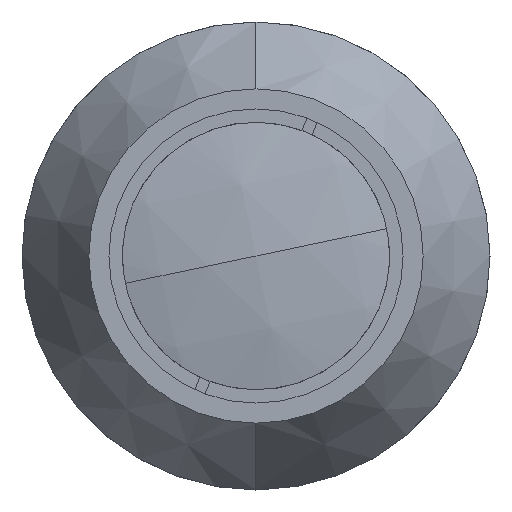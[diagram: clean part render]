
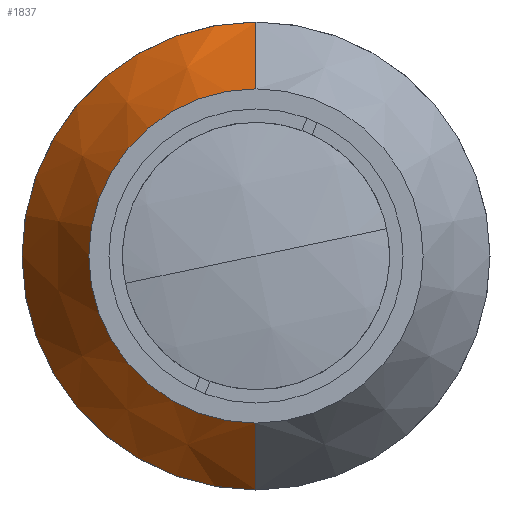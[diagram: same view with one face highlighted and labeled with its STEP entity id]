
A CAD part, left-side view. The second image highlights one B-rep face of the part: STEP entity #1837.
In plain terms, the highlighted conical face has half-angle 30 degrees and reference radius 21 mm.
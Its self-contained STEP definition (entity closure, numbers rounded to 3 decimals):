
#91 = EDGE_LOOP ( 'NONE', ( #3039, #1807, #3028, #622 ) ) ;
#232 = DIRECTION ( 'NONE',  ( 0., 0., 1. ) ) ;
#233 = CARTESIAN_POINT ( 'NONE',  ( 25.392, 0., 0. ) ) ;
#522 = CONICAL_SURFACE ( 'NONE', #3372, 21., 0.524 ) ;
#622 = ORIENTED_EDGE ( 'NONE', *, *, #1329, .F. ) ;
#696 = VERTEX_POINT ( 'NONE', #1925 ) ;
#812 = DIRECTION ( 'NONE',  ( 0., 0., -1. ) ) ;
#943 = VECTOR ( 'NONE', #3782, 1000. ) ;
#969 = CARTESIAN_POINT ( 'NONE',  ( 15., 0., -15. ) ) ;
#972 = DIRECTION ( 'NONE',  ( 0.866, 0., -0.5 ) ) ;
#1041 = VECTOR ( 'NONE', #972, 1000. ) ;
#1214 = EDGE_CURVE ( 'NONE', #3659, #3347, #2237, .T. ) ;
#1329 = EDGE_CURVE ( 'NONE', #2453, #3347, #2701, .T. ) ;
#1343 = CARTESIAN_POINT ( 'NONE',  ( 25.392, 0., -21. ) ) ;
#1352 = DIRECTION ( 'NONE',  ( -1., 0., 0. ) ) ;
#1353 = EDGE_CURVE ( 'NONE', #696, #3659, #3441, .T. ) ;
#1405 = EDGE_CURVE ( 'NONE', #696, #2453, #1545, .T. ) ;
#1407 = DIRECTION ( 'NONE',  ( 1., 0., 0. ) ) ;
#1527 = FACE_OUTER_BOUND ( 'NONE', #91, .T. ) ;
#1545 = CIRCLE ( 'NONE', #3817, 15. ) ;
#1807 = ORIENTED_EDGE ( 'NONE', *, *, #1353, .T. ) ;
#1837 = ADVANCED_FACE ( 'NONE', ( #1527 ), #522, .T. ) ;
#1925 = CARTESIAN_POINT ( 'NONE',  ( 15., 0., 15. ) ) ;
#2016 = DIRECTION ( 'NONE',  ( -1., 0., 0. ) ) ;
#2237 = CIRCLE ( 'NONE', #3920, 21. ) ;
#2320 = CARTESIAN_POINT ( 'NONE',  ( 25.392, 0., 21. ) ) ;
#2453 = VERTEX_POINT ( 'NONE', #969 ) ;
#2701 = LINE ( 'NONE', #2827, #1041 ) ;
#2827 = CARTESIAN_POINT ( 'NONE',  ( 25.392, 0., -21. ) ) ;
#2858 = CARTESIAN_POINT ( 'NONE',  ( 25.392, 0., 21. ) ) ;
#3028 = ORIENTED_EDGE ( 'NONE', *, *, #1214, .T. ) ;
#3039 = ORIENTED_EDGE ( 'NONE', *, *, #1405, .F. ) ;
#3252 = CARTESIAN_POINT ( 'NONE',  ( 15., 0., 0. ) ) ;
#3347 = VERTEX_POINT ( 'NONE', #1343 ) ;
#3372 = AXIS2_PLACEMENT_3D ( 'NONE', #233, #1407, #812 ) ;
#3441 = LINE ( 'NONE', #2858, #943 ) ;
#3551 = DIRECTION ( 'NONE',  ( 0., 0., 1. ) ) ;
#3659 = VERTEX_POINT ( 'NONE', #2320 ) ;
#3782 = DIRECTION ( 'NONE',  ( 0.866, 0., 0.5 ) ) ;
#3817 = AXIS2_PLACEMENT_3D ( 'NONE', #3252, #1352, #3551 ) ;
#3907 = CARTESIAN_POINT ( 'NONE',  ( 25.392, 0., 0. ) ) ;
#3920 = AXIS2_PLACEMENT_3D ( 'NONE', #3907, #2016, #232 ) ;
